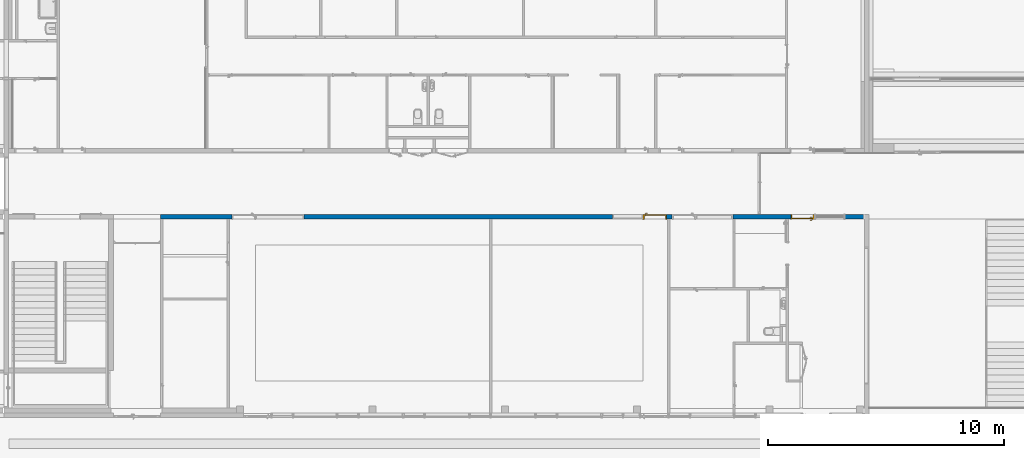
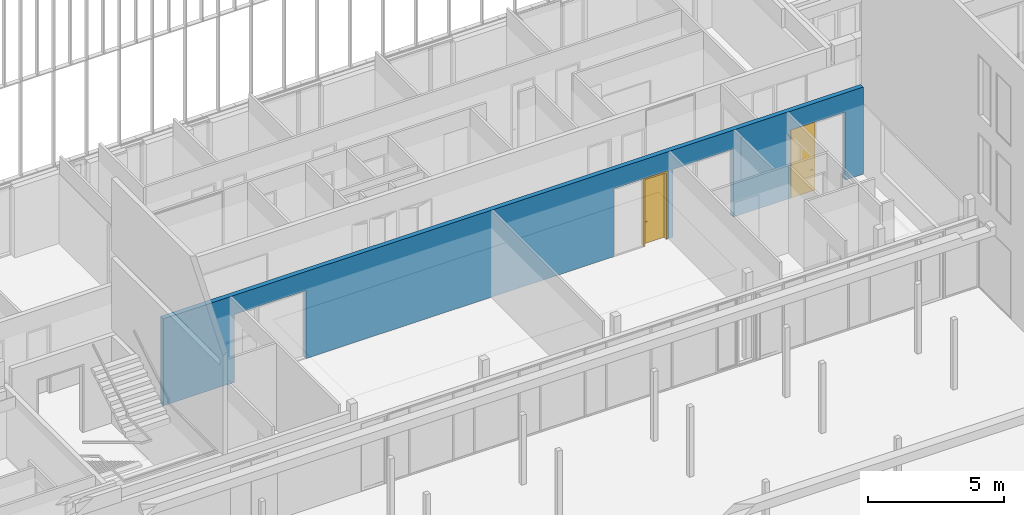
# One storey, part 148 of 240: 2 doors, 1 wall, 8 openings.
"""IFC2X3 building model written with IfcOpenShell, lengths in centimetres."""

from ifc_helpers import new_model, entity, si_unit, converted_unit, derived_unit, direction, frame, frame_2d, origin, place, context, subcontext, project, spatial, polyline, rectangle, extrude, clip, bounded_halfspace, faceted_brep, source, transform, mapped, material, material_list, layer, layer_set, layer_usage, type_object, type_shapes, element, fill, save


model = new_model("IFC2X3")

# Units and contexts
model_context = context("Model", 3, precision=0.001, world=origin(), true_north=direction((6.12303176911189e-17, 1.0)))
body_context = subcontext(model_context, "Body", "Model", "MODEL_VIEW")
ifc_project = project(units=[si_unit("LENGTHUNIT", "METRE", prefix="CENTI"), si_unit("AREAUNIT", "SQUARE_METRE"), si_unit("VOLUMEUNIT", "CUBIC_METRE"), converted_unit("PLANEANGLEUNIT", "DEGREE", entity("IfcRatioMeasure", 0.0174532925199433), si_unit("PLANEANGLEUNIT", "RADIAN"), dimensions=[0, 0, 0, 0, 0, 0, 0]), si_unit("MASSUNIT", "GRAM", prefix="KILO"), derived_unit("MASSDENSITYUNIT", [(si_unit("MASSUNIT", "GRAM", prefix="KILO"), 1), (si_unit("LENGTHUNIT", "METRE"), -3)]), si_unit("TIMEUNIT", "SECOND"), si_unit("FREQUENCYUNIT", "HERTZ"), si_unit("THERMODYNAMICTEMPERATUREUNIT", "DEGREE_CELSIUS"), derived_unit("THERMALTRANSMITTANCEUNIT", [(si_unit("MASSUNIT", "GRAM", prefix="KILO"), 1), (si_unit("THERMODYNAMICTEMPERATUREUNIT", "KELVIN"), -1), (si_unit("TIMEUNIT", "SECOND"), -3)]), derived_unit("VOLUMETRICFLOWRATEUNIT", [(si_unit("LENGTHUNIT", "METRE"), 3), (si_unit("TIMEUNIT", "SECOND"), -1)]), si_unit("ELECTRICCURRENTUNIT", "AMPERE"), si_unit("ELECTRICVOLTAGEUNIT", "VOLT"), si_unit("POWERUNIT", "WATT"), si_unit("FORCEUNIT", "NEWTON", prefix="KILO"), si_unit("ILLUMINANCEUNIT", "LUX"), si_unit("LUMINOUSFLUXUNIT", "LUMEN"), si_unit("LUMINOUSINTENSITYUNIT", "CANDELA"), derived_unit("USERDEFINED", [(si_unit("MASSUNIT", "GRAM", prefix="KILO"), -1), (si_unit("LENGTHUNIT", "METRE"), -2), (si_unit("TIMEUNIT", "SECOND"), 3), (si_unit("LUMINOUSFLUXUNIT", "LUMEN"), 1)]), derived_unit("LINEARVELOCITYUNIT", [(si_unit("LENGTHUNIT", "METRE"), 1), (si_unit("TIMEUNIT", "SECOND"), -1)]), si_unit("PRESSUREUNIT", "PASCAL"), derived_unit("USERDEFINED", [(si_unit("LENGTHUNIT", "METRE"), -2), (si_unit("MASSUNIT", "GRAM", prefix="KILO"), 1), (si_unit("TIMEUNIT", "SECOND"), -2)])], contexts=[model_context])

# Site, building, storey
site_placement = place(None, frame((-2781.94577612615, 7442.24238424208, 0.0)))
site = spatial("IfcSite", under=ifc_project, at=site_placement, Name="Default", CompositionType="ELEMENT")
building_placement = place(site_placement, origin())
building = spatial("IfcBuilding", under=site, at=building_placement, CompositionType="ELEMENT")
storey_placement = place(building_placement, origin())
storey = spatial("IfcBuildingStorey", under=building, at=storey_placement, Name="N00 - COO", CompositionType="ELEMENT", Elevation=0.0)

# Wall, openings, doors
ifc_material_1 = material(Name="01 - Maçonnerie")
ifc_layer = layer(ifc_material_1, 20.0)
ifc_layer_set = layer_set([ifc_layer], Name="Mur de base:04 - Structure - béton - 20cm")
ifc_layer_usage = layer_usage(ifc_layer_set, "AXIS2", "NEGATIVE", 10.0)
wall_type = type_object("IfcWallType", Name="Mur de base:04 - Structure - béton - 20cm", PredefinedType="STANDARD", material=ifc_layer_set)
wall_placement = place(building_placement, frame((-7766.49987760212, -1100.0, 0.0)))
wall = element("IfcWallStandardCase", 1, at=wall_placement, inside=storey, type_object=wall_type, material=ifc_layer_usage, Name="Mur de base:04 - Structure - béton - 20cm", ObjectType="Mur de base:04 - Structure - béton - 20cm", context=body_context, shape_type="Clipping", body=[
    clip(extrude(rectangle(XDim=2974.5, YDim=19.9999999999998, at=frame_2d((1487.25, -6.21724893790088e-14), x_axis=(-1.0, 0.0))), origin(), (0.0, 0.0, 1.0), 391.0), bounded_halfspace(frame((0.0, -10.0, 391.0), z_axis=(0.0, 0.0, -1.0), x_axis=(0.0, 1.0, 0.0)), True, frame((0.0, -10.0, 391.0)), polyline([(0.0, 0.0), (10.0, 0.0), (282.0, 0.0), (292.0, 0.0), (1392.0, 0.0), (1402.0, 0.0), (2145.25, 0.0), (2155.25, 0.0), (2422.0, 0.0), (2432.0, 0.0), (2647.0, 0.0), (2657.0, 0.0), (2974.5, 0.0), (2974.5, 20.0), (2539.0, 20.0), (2529.0, 20.0), (0.0, 20.0), (0.0, 0.0)]))),
])
opening_1_placement = place(wall_placement, origin())
element("IfcOpeningElement", 2, at=opening_1_placement, cuts=wall, Name="Mur de base:04 - Structure - béton - 20cm", ObjectType="Opening", context=body_context, shape_type="SweptSolid", body=[
    extrude(rectangle(XDim=306.0, YDim=130.000000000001, at=frame_2d((0.0, 4.33431068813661e-13), x_axis=(1.0, 0.0))), frame((2832.0, -25.2400000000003, 153.0), z_axis=(0.0, 1.0, 0.0), x_axis=(0.0, 0.0, 1.0)), (0.0, 0.0, 1.0), 50.48),
])
opening_2_placement = place(wall_placement, frame((2767.0, 10.0, 0.0)))
opening_2 = element("IfcOpeningElement", 3, at=opening_2_placement, cuts=wall, Name="Int. Simple:PV (0.93m x 3.00m):1", ObjectType="Opening", context=body_context, shape_type="SweptSolid", body=[
    extrude(rectangle(XDim=304.500000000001, YDim=99.9999999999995, at=frame_2d((152.250000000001, 49.9999999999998), x_axis=(1.0, 0.0))), frame((0.0, 0.0, 0.0), z_axis=(0.0, -1.0, 0.0), x_axis=(0.0, 0.0, 1.0)), (0.0, 0.0, 1.0), 20.0),
])
opening_3_placement = place(wall_placement, frame((2042.0, -10.0, 0.0)))
opening_3 = element("IfcOpeningElement", 4, at=opening_3_placement, cuts=wall, Name="Int. Simple:PV (0.93m x 3.00m):1", ObjectType="Opening", context=body_context, shape_type="SweptSolid", body=[
    extrude(rectangle(XDim=304.500000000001, YDim=99.9999999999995, at=frame_2d((152.250000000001, 49.9999999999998), x_axis=(1.0, 0.0))), frame((0.0, 0.0, 0.0), z_axis=(0.0, 1.0, 0.0), x_axis=(0.0, 0.0, 1.0)), (0.0, 0.0, 1.0), 20.0),
])
opening_4_placement = place(wall_placement, frame((302.0, -10.0, 0.0)))
element("IfcOpeningElement", 5, at=opening_4_placement, cuts=wall, Name="Int. Simple:PV (0.93m x 3.00m):1", ObjectType="Opening", context=body_context, shape_type="SweptSolid", body=[
    extrude(rectangle(XDim=304.500000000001, YDim=99.9999999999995, at=frame_2d((152.250000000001, 50.0), x_axis=(1.0, 0.0))), frame((0.0, 0.0, 0.0), z_axis=(0.0, 1.0, 0.0), x_axis=(0.0, 0.0, 1.0)), (0.0, 0.0, 1.0), 20.0),
])
opening_5_placement = place(wall_placement, frame((1912.0, -10.0, 0.0)))
element("IfcOpeningElement", 6, at=opening_5_placement, cuts=wall, Name="châssis intérieur vitré:châssis intérieur vitré (h=306):1", ObjectType="Opening", context=body_context, shape_type="SweptSolid", body=[
    extrude(rectangle(XDim=306.0, YDim=130.0, at=frame_2d((153.0, 65.0), x_axis=(1.0, 0.0))), frame((0.0, 0.0, 0.0), z_axis=(0.0, 1.0, 0.0), x_axis=(0.0, 0.0, 1.0)), (0.0, 0.0, 1.0), 20.0),
])
opening_6_placement = place(wall_placement, frame((607.0, 10.0, 0.0)))
element("IfcOpeningElement", 7, at=opening_6_placement, cuts=wall, Name="châssis intérieur vitré:châssis intérieur vitré (h=306):1", ObjectType="Opening", context=body_context, shape_type="SweptSolid", body=[
    extrude(rectangle(XDim=306.0, YDim=205.0, at=frame_2d((153.0, 102.5), x_axis=(1.0, 0.0))), frame((0.0, 0.0, 0.0), z_axis=(0.0, -1.0, 0.0), x_axis=(0.0, 0.0, 1.0)), (0.0, 0.0, 1.0), 20.0),
])
opening_7_placement = place(wall_placement, frame((2421.89839761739, 10.0, 0.0)))
element("IfcOpeningElement", 8, at=opening_7_placement, cuts=wall, Name="châssis intérieur vitré:châssis intérieur vitré (h=306):1", ObjectType="Opening", context=body_context, shape_type="SweptSolid", body=[
    extrude(rectangle(XDim=306.0, YDim=156.64839761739, at=frame_2d((153.0, 78.324198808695), x_axis=(1.0, 0.0))), frame((0.0, 0.0, 0.0), z_axis=(0.0, -1.0, 0.0), x_axis=(0.0, 0.0, 1.0)), (0.0, 0.0, 1.0), 20.0),
])
opening_8_placement = place(wall_placement, frame((2165.25, -10.0, 0.0)))
element("IfcOpeningElement", 9, at=opening_8_placement, cuts=wall, Name="Int. Simple:PV (0.93m x 3.00m):1", ObjectType="Opening", context=body_context, shape_type="SweptSolid", body=[
    extrude(rectangle(XDim=304.500000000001, YDim=99.9999999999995, at=frame_2d((152.250000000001, 50.0), x_axis=(1.0, 0.0))), frame((0.0, 0.0, 0.0), z_axis=(0.0, 1.0, 0.0), x_axis=(0.0, 0.0, 1.0)), (0.0, 0.0, 1.0), 20.0),
])
ifc_material_2 = material(Name="Finition Peinture - Blanc satiné")
ifc_material_3 = material(Name="Bois - Panneau de porte")
ifc_material_4 = material(Name="Bois - Cadre de porte")
ifc_material_list_1 = material_list([ifc_material_2, ifc_material_3, ifc_material_4])
ifc_material_list_2 = material_list([ifc_material_2, ifc_material_3, ifc_material_4])
door_style = type_object("IfcDoorStyle", Name="PV (0.93m x 3.00m)", ConstructionType="NOTDEFINED", OperationType="SINGLE_SWING_RIGHT", ParameterTakesPrecedence=False, Sizeable=False, material=ifc_material_list_2)
shared_shape = source(origin(), body_context, "Body", "Brep", [
    faceted_brep([(99.5000000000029, -0.500000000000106, 87.0), (99.5000000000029, -0.500000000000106, 108.0), (98.535276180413, -0.500000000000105, 108.399601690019), (97.5000000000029, -0.500000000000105, 108.535898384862), (96.4647238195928, -0.500000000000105, 108.399601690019), (95.500000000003, -0.500000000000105, 108.0), (95.5000000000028, -0.500000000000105, 87.0), (96.4647238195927, -0.500000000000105, 86.6003983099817), (97.5000000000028, -0.500000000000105, 86.464101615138), (98.5352761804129, -0.500000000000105, 86.6003983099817), (99.5000000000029, 0.0, 108.0), (99.5000000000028, 0.0, 87.0), (98.5352761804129, 0.0, 86.6003983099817), (97.5000000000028, 0.0, 86.464101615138), (96.4647238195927, 0.0, 86.6003983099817), (95.5000000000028, 0.0, 87.0), (95.5000000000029, 0.0, 108.0), (96.4647238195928, 0.0, 108.399601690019), (97.5000000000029, 0.0, 108.535898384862), (98.535276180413, 0.0, 108.399601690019)], [[[0, 1, 2, 3, 4, 5, 6, 7, 8, 9]], [[10, 11, 12, 13, 14, 15, 16, 17, 18, 19]], [[9, 12, 11, 0]], [[8, 13, 12, 9]], [[7, 14, 13, 8]], [[7, 6, 15, 14]], [[15, 6, 5, 16]], [[4, 17, 16, 5]], [[3, 18, 17, 4]], [[2, 19, 18, 3]], [[2, 1, 10, 19]], [[11, 10, 1, 0]]]),
    faceted_brep([(99.5000000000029, 4.0, 87.0), (99.5000000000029, 4.0, 108.0), (98.535276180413, 4.0, 108.399601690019), (97.5000000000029, 4.0, 108.535898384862), (96.4647238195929, 4.0, 108.399601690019), (95.500000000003, 4.0, 108.0), (95.5000000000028, 4.0, 87.0), (96.4647238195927, 4.0, 86.6003983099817), (97.5000000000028, 4.0, 86.464101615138), (98.5352761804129, 4.0, 86.6003983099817), (97.5000000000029, 4.49999999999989, 108.535898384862), (98.535276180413, 4.49999999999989, 108.399601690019), (99.5000000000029, 4.49999999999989, 108.0), (99.5000000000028, 4.49999999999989, 87.0), (98.5352761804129, 4.49999999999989, 86.6003983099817), (97.5000000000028, 4.49999999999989, 86.464101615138), (96.4647238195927, 4.49999999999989, 86.6003983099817), (95.5000000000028, 4.49999999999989, 87.0), (95.500000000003, 4.49999999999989, 108.0), (96.4647238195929, 4.49999999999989, 108.399601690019)], [[[0, 1, 2, 3, 4, 5, 6, 7, 8, 9]], [[10, 11, 12, 13, 14, 15, 16, 17, 18, 19]], [[4, 19, 18, 5]], [[3, 10, 19, 4]], [[2, 11, 10, 3]], [[2, 1, 12, 11]], [[13, 12, 1, 0]], [[9, 14, 13, 0]], [[8, 15, 14, 9]], [[7, 16, 15, 8]], [[7, 6, 17, 16]], [[17, 6, 5, 18]]]),
    faceted_brep([(97.2974701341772, -0.500000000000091, 100.778044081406), (97.7025298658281, -0.500000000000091, 100.778044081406), (98.1000000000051, -0.500000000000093, 100.699999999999), (98.100000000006, -0.500000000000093, 99.2999999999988), (97.7025298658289, -0.500000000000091, 99.221955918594), (97.297470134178, -0.500000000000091, 99.2219559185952), (96.9000000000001, -0.500000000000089, 99.3000000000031), (96.9000000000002, -0.500000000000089, 100.7), (97.7025298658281, -3.10045754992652, 100.778044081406), (98.1000000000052, -3.26509507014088, 100.7), (97.2974701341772, -2.93267631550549, 100.778044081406), (95.9298602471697, -4.30028620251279, 100.778044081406), (96.0976414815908, -4.70534593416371, 100.778044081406), (96.9000000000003, -2.76803879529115, 100.7), (96.9000000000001, -2.76803879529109, 99.3000000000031), (97.297470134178, -2.93267631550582, 99.2219559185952), (97.7025298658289, -3.10045754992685, 99.221955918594), (96.0976414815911, -4.70534593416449, 99.221955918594), (95.9298602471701, -4.30028620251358, 99.2219559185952), (98.100000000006, -3.26509507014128, 99.2999999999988), (96.2622790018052, -5.1028160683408, 100.7), (95.7652227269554, -3.90281606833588, 100.7), (95.7652227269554, -3.90281606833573, 99.3000000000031), (96.2622790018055, -5.10281606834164, 99.2999999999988), (87.4981359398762, -5.10281606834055, 100.7), (87.4981359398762, -4.70534593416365, 100.778044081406), (87.4981359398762, -4.30028620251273, 100.778044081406), (87.4981359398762, -3.90281606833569, 100.699999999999), (87.4981359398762, -3.90281606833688, 99.3000000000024), (87.4981359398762, -4.30028620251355, 99.2219559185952), (87.4981359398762, -4.70534593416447, 99.221955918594), (87.4981359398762, -5.10281606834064, 99.2999999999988), (91.7139980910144, -4.5028160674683, 100.78786867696), (92.2692302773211, -5.1028160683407, 100.7), (91.6316793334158, -3.9028160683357, 100.7), (91.631679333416, -3.90281606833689, 99.3000000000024), (91.7139981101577, -4.50281607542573, 99.2121313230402), (92.2692310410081, -5.10281606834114, 99.2999999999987)], [[[0, 1, 2, 3, 4, 5, 6, 7]], [[2, 1, 8, 9]], [[1, 0, 10, 11, 12, 8]], [[0, 7, 13, 10]], [[14, 13, 7, 6]], [[5, 15, 14, 6]], [[5, 4, 16, 17, 18, 15]], [[3, 19, 16, 4]], [[9, 19, 3, 2]], [[9, 8, 12, 20]], [[10, 13, 21, 11]], [[22, 21, 13, 14]], [[14, 15, 18, 22]], [[16, 19, 23, 17]], [[20, 23, 19, 9]], [[24, 25, 26, 27, 28, 29, 30, 31]], [[32, 25, 33]], [[33, 25, 24]], [[33, 20, 12]], [[11, 34, 32]], [[34, 11, 21]], [[27, 26, 34]], [[32, 26, 25]], [[32, 34, 26]], [[32, 33, 12]], [[11, 32, 12]], [[21, 22, 35, 28, 27, 34]], [[36, 29, 35]], [[30, 36, 37]], [[18, 35, 22]], [[29, 28, 35]], [[30, 37, 31]], [[37, 17, 23]], [[36, 17, 37]], [[36, 18, 17]], [[36, 35, 18]], [[29, 36, 30]], [[23, 20, 33, 24, 31, 37]]]),
    faceted_brep([(97.2974701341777, 4.49999999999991, 99.2219559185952), (97.7025298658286, 4.49999999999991, 99.221955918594), (98.1000000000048, 4.4999999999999, 99.2999999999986), (98.1000000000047, 4.4999999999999, 100.7), (97.7025298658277, 4.49999999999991, 100.778044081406), (97.2974701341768, 4.49999999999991, 100.778044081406), (96.8999999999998, 4.49999999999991, 100.7), (96.900000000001, 4.49999999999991, 99.3000000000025), (96.8999999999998, 6.7485204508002, 100.7), (96.8999999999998, 6.74852045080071, 99.3000000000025), (97.2974701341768, 6.91315797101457, 100.778044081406), (97.7025298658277, 7.0809392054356, 100.778044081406), (96.0838906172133, 8.69957845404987, 100.778044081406), (95.9161093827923, 8.29451872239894, 100.778044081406), (98.1000000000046, 7.24557672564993, 100.7), (98.1000000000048, 7.24557672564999, 99.2999999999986), (97.7025298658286, 7.08093920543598, 99.221955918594), (97.2974701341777, 6.91315797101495, 99.2219559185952), (95.9161093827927, 8.29451872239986, 99.2219559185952), (96.0838906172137, 8.69957845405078, 99.221955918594), (95.751471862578, 7.89704858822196, 100.7), (95.7514718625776, 7.89704858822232, 99.3000000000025), (96.2485281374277, 9.09704858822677, 100.7), (96.2485281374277, 9.09704858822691, 99.2999999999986), (87.4954216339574, 8.29451872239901, 100.778044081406), (87.4954216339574, 8.69957845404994, 100.778044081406), (87.4954216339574, 9.09704858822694, 100.7), (87.4954216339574, 9.09704858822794, 99.2999999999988), (87.4954216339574, 8.6995784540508, 99.221955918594), (87.4954216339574, 8.29451872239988, 99.2219559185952), (87.4954216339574, 7.89704858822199, 99.3000000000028), (87.4954216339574, 7.89704858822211, 100.7), (91.6234467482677, 7.89704858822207, 100.7), (91.6234479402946, 7.89704858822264, 99.3000000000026), (91.7057655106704, 8.49704858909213, 100.78786867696), (92.255479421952, 9.09704858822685, 100.7), (92.2554795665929, 9.09704858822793, 99.2999999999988), (91.7057654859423, 8.49704858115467, 99.2121313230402)], [[[0, 1, 2, 3, 4, 5, 6, 7]], [[8, 9, 7, 6]], [[5, 10, 8, 6]], [[5, 4, 11, 12, 13, 10]], [[3, 14, 11, 4]], [[14, 3, 2, 15]], [[2, 1, 16, 15]], [[1, 0, 17, 18, 19, 16]], [[0, 7, 9, 17]], [[20, 21, 9, 8]], [[8, 10, 13, 20]], [[14, 22, 12, 11]], [[23, 22, 14, 15]], [[15, 16, 19, 23]], [[17, 9, 21, 18]], [[24, 25, 26, 27, 28, 29, 30, 31]], [[21, 20, 32, 31, 30, 33]], [[34, 24, 32]], [[25, 34, 35]], [[13, 32, 20]], [[24, 31, 32]], [[25, 35, 26]], [[35, 12, 22]], [[34, 12, 35]], [[34, 13, 12]], [[34, 32, 13]], [[24, 34, 25]], [[22, 23, 36, 27, 26, 35]], [[37, 28, 36]], [[36, 28, 27]], [[36, 23, 19]], [[18, 33, 37]], [[33, 18, 21]], [[30, 29, 33]], [[37, 29, 28]], [[37, 33, 29]], [[37, 36, 19]], [[18, 37, 19]]]),
    faceted_brep([(103.500000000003, 4.0, 301.0), (103.500000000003, 4.0, 0.0), (10.5000000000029, 4.0, 0.0), (10.5000000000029, 4.0, 301.0), (103.500000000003, 0.0, 301.0), (10.5000000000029, 0.0, 301.0), (10.5000000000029, 0.0, 0.0), (103.500000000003, 0.0, 0.0)], [[[0, 1, 2, 3]], [[4, 5, 6, 7]], [[3, 5, 4, 0]], [[2, 6, 5, 3]], [[1, 7, 6, 2]], [[0, 4, 7, 1]]]),
    faceted_brep([(107.0, 20.0, 0.0), (107.0, 0.0, 0.0), (108.500000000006, 0.0, 0.0), (108.500000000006, -0.500000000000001, 0.0), (103.500000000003, -0.500000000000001, 0.0), (103.500000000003, 4.0, 0.0), (102.0, 4.0, 0.0), (102.0, 20.5000000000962, 0.0), (108.500000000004, 20.5000000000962, 0.0), (108.500000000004, 20.0, 0.0), (108.500000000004, 20.0, 306.0), (5.50000000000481, 20.0, 306.0), (5.50000000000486, 20.0, 0.0), (7.0, 20.0, 0.0), (7.0, 20.0, 304.500000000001), (107.0, 20.0, 304.500000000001), (108.500000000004, 20.5000000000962, 306.0), (102.0, 20.5000000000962, 299.5), (12.0, 20.5000000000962, 299.5), (12.0, 20.5000000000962, 0.0), (5.50000000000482, 20.5000000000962, 0.0), (5.50000000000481, 20.5000000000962, 306.0), (102.0, 4.0, 299.5), (103.500000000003, 4.0, 301.0), (10.5000000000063, 4.0, 301.0), (10.5000000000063, 4.0, 0.0), (12.0, 4.0, 0.0), (12.0, 4.0, 299.5), (103.500000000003, -0.500000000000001, 301.0), (108.500000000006, -0.500000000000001, 306.0), (5.5000000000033, -0.500000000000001, 306.0), (5.50000000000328, -0.500000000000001, 0.0), (10.5000000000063, -0.500000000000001, 0.0), (10.5000000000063, -0.500000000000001, 301.0), (108.500000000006, 0.0, 306.0), (107.0, 0.0, 304.500000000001), (7.0, 0.0, 304.500000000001), (7.0, 0.0, 0.0), (5.5000000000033, 0.0, 0.0), (5.50000000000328, 0.0, 306.0)], [[[0, 1, 2, 3, 4, 5, 6, 7, 8, 9]], [[9, 10, 11, 12, 13, 14, 15, 0]], [[8, 16, 10, 9]], [[7, 17, 18, 19, 20, 21, 16, 8]], [[7, 6, 22, 17]], [[5, 23, 24, 25, 26, 27, 22, 6]], [[5, 4, 28, 23]], [[3, 29, 30, 31, 32, 33, 28, 4]], [[2, 34, 29, 3]], [[1, 35, 36, 37, 38, 39, 34, 2]], [[0, 15, 35, 1]], [[14, 13, 37, 36]], [[13, 12, 20, 19, 26, 25, 32, 31, 38, 37]], [[21, 20, 12, 11]], [[27, 26, 19, 18]], [[33, 32, 25, 24]], [[39, 38, 31, 30]], [[15, 14, 36, 35]], [[16, 21, 11, 10]], [[22, 27, 18, 17]], [[28, 33, 24, 23]], [[34, 39, 30, 29]]]),
])
type_shapes(door_style, [shared_shape])
door_1_placement = place(opening_2_placement, frame((-107.0, -20.0, 0.0)))
door_1 = element("IfcDoor", 10, at=door_1_placement, inside=storey, type_object=door_style, material=ifc_material_list_1, Name="Int. Simple:PV (0.93m x 3.00m)", ObjectType="Int. Simple:PV (0.93m x 3.00m)", OverallHeight=304.500000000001, OverallWidth=99.9999999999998, context=body_context, shape_type="MappedRepresentation", body=[
    mapped(shared_shape, transform((0.0, 0.0, 0.0), scale=1.0)),
])
fill(opening_2, door_1)
ifc_material_list_3 = material_list([ifc_material_2, ifc_material_3, ifc_material_4])
door_2_placement = place(opening_3_placement, frame((107.0, 20.0, 0.0), z_axis=(0.0, 0.0, 1.0), x_axis=(-1.0, 0.0, 0.0)))
door_2 = element("IfcDoor", 11, at=door_2_placement, inside=storey, type_object=door_style, material=ifc_material_list_3, Name="Int. Simple:PV (0.93m x 3.00m)", ObjectType="Int. Simple:PV (0.93m x 3.00m)", OverallHeight=304.500000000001, OverallWidth=99.9999999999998, context=body_context, shape_type="MappedRepresentation", body=[
    mapped(shared_shape, transform((0.0, 0.0, 0.0), scale=1.0)),
])
fill(opening_3, door_2)

save(model, "model.ifc")
